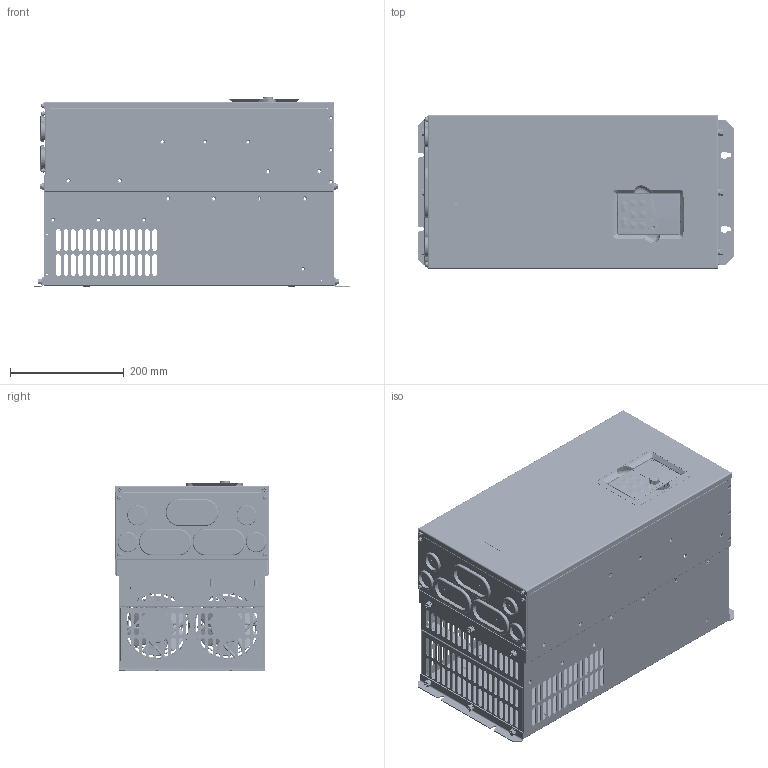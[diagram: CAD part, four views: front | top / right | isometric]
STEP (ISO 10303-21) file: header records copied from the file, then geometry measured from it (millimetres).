
FILE_DESCRIPTION((''),'2;1');
FILE_NAME('GD300-055G-4_ASM','2016-03-10T',('Administrator'),(''),'PRO/ENGINEER BY PARAMETRIC TECHNOLOGY CORPORATION, 2010100','PRO/ENGINEER BY PARAMETRIC TECHNOLOGY CORPORATION, 2010100','');
FILE_SCHEMA(('CONFIG_CONTROL_DESIGN'));
Products named in the file (52): TERMINAL_01; TERMINAL_02; TERMINAL_01_ASM; 2-21-12-123-4C-230HBT; FENGSHANWANG_S; FAN_ASM; 005; 006; INVT8_034_0058_; INVT8_034_0059_; INVT8_034_0060_; 86410001; INVT8_034_0064_; SHUMAGUAN_; 001_ASM; 01; LED-01; NEW-CONTROL-PCBA; CONTROL_PCB_01_ASM; CHE200-055G-4_ES_ASM; 77550010; 40850001_ASM; GB9074_4_M4X50; GB9074_13_M5X12; GB9074_13_M6X12; GB9074_13_M6X16; GB9074_4_M4X10; GB9074_4_M4X16; GB9074_13_M8X20; GD300-055G-4-FS_ASM; 80780002; 80381364; S-M6-ZC; S-M4-ZC; S-M5-ZC; BSO-M4-12-ZC; 80381364_ASM; 80381430; 80381430_ASM; GB12617_4_4X10_SL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
Assembly tree (143 placements, depth 5):
  GD300-055G-4_ASM
    CHE200-055G-4_ES_ASM
      TERMINAL_01_ASM
        TERMINAL_01  x9
        TERMINAL_02  x2
      FAN_ASM
        2-21-12-123-4C-230HBT  x2
        FENGSHANWANG_S  x2
      005  x3
      006  x4
      001_ASM
        INVT8_034_0058_
        INVT8_034_0059_
        INVT8_034_0060_
        86410001
        INVT8_034_0064_
        SHUMAGUAN_
      01
      LED-01
      CONTROL_PCB_01_ASM
        NEW-CONTROL-PCBA
    40850001_ASM
      77550010
    GD300-055G-4-FS_ASM
      GB9074_4_M4X50  x4
      GB9074_13_M5X12  x3
      GB9074_13_M6X12
      GB9074_13_M6X16  x17
      GB9074_4_M4X10  x10
      GB9074_4_M4X16  x2
      GB9074_13_M8X20  x2
    80780002
    40800228_ASM
      61060181_ASM
        80381364_ASM
          80381364
          S-M6-ZC  x6
          S-M4-ZC  x14
          S-M5-ZC  x2
          BSO-M4-12-ZC  x4
        80381430_ASM
          80381430
          S-M4-ZC  x6
          S-M6-ZC  x6
        GB12617_4_4X10_SL  x11
      80380005
      80380012
      80380004
      80380009
      80380011
      80381477
      80381477SY
      80381431_ASM
        80381431
Bounding box: 555 x 270 x 332.6 mm (x, y, z)
Volume: 2226186 mm3; surface area: 2444771.3 mm2
Topology: 181 solids, 188 shells, 10209 faces, 26504 edges, 16902 vertices
Faces by surface type: plane 5884, cylinder 2569, cone 741, torus 456, bspline 410, sphere 84, extrusion 33, revolution 32
Entity records: 180515 total; most frequent: CARTESIAN_POINT 49548, ORIENTED_EDGE 27331, DIRECTION 26755, EDGE_CURVE 13692, AXIS2_PLACEMENT_3D 9302, VERTEX_POINT 8700, VECTOR 8135, LINE 8116
